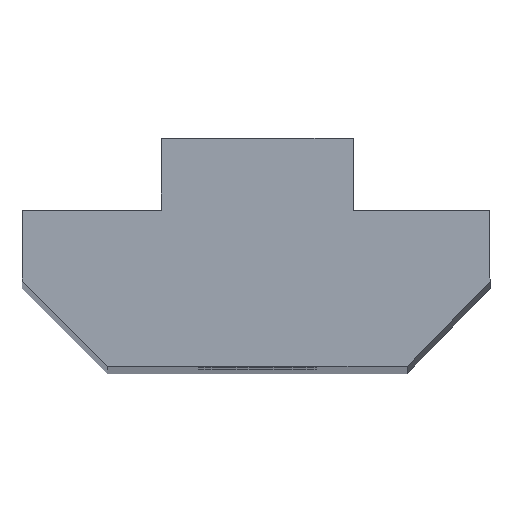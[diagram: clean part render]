
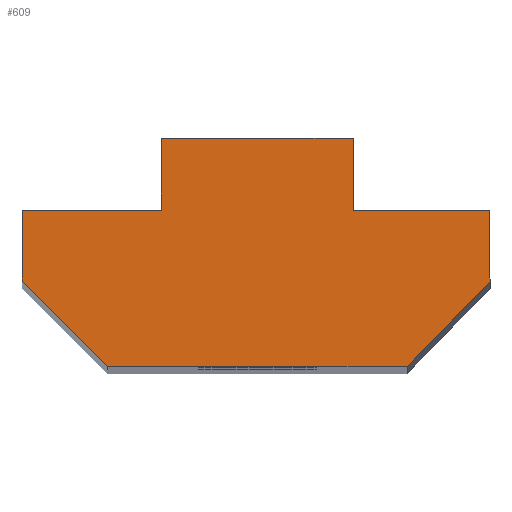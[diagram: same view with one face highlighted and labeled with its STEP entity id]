
A CAD part, top view. The second image highlights one B-rep face of the part: STEP entity #609.
In plain terms, the highlighted planar face has unit normal (0, 0, 1).
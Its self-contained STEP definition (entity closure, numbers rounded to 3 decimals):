
#245=CARTESIAN_POINT('',(213.687,131.952,180.0));
#246=VERTEX_POINT('',#245);
#247=CARTESIAN_POINT('',(219.487,131.952,180.0));
#248=VERTEX_POINT('',#247);
#249=CARTESIAN_POINT('',(213.687,131.952,180.0));
#250=DIRECTION('',(1.0,0.0,0.0));
#251=VECTOR('',#250,5.8);
#252=LINE('',#249,#251);
#253=EDGE_CURVE('',#246,#248,#252,.T.);
#285=CARTESIAN_POINT('',(219.487,134.952,180.0));
#286=VERTEX_POINT('',#285);
#287=CARTESIAN_POINT('',(219.487,131.952,180.0));
#288=DIRECTION('',(0.0,1.0,0.0));
#289=VECTOR('',#288,3.0);
#290=LINE('',#287,#289);
#291=EDGE_CURVE('',#248,#286,#290,.T.);
#316=CARTESIAN_POINT('',(227.487,134.952,180.0));
#317=VERTEX_POINT('',#316);
#318=CARTESIAN_POINT('',(219.487,134.952,180.0));
#319=DIRECTION('',(1.0,0.0,0.0));
#320=VECTOR('',#319,8.0);
#321=LINE('',#318,#320);
#322=EDGE_CURVE('',#286,#317,#321,.T.);
#359=CARTESIAN_POINT('',(227.487,131.952,180.0));
#360=VERTEX_POINT('',#359);
#361=CARTESIAN_POINT('',(227.487,134.952,180.0));
#362=DIRECTION('',(0.0,-1.0,0.0));
#363=VECTOR('',#362,3.);
#364=LINE('',#361,#363);
#365=EDGE_CURVE('',#317,#360,#364,.T.);
#390=CARTESIAN_POINT('',(233.187,131.952,180.0));
#391=VERTEX_POINT('',#390);
#392=CARTESIAN_POINT('',(227.487,131.952,180.0));
#393=DIRECTION('',(1.0,0.0,0.0));
#394=VECTOR('',#393,5.7);
#395=LINE('',#392,#394);
#396=EDGE_CURVE('',#360,#391,#395,.T.);
#421=CARTESIAN_POINT('',(233.187,129.002,180.0));
#422=VERTEX_POINT('',#421);
#423=CARTESIAN_POINT('',(233.187,131.952,180.0));
#424=DIRECTION('',(0.0,-1.0,0.0));
#425=VECTOR('',#424,2.95);
#426=LINE('',#423,#425);
#427=EDGE_CURVE('',#391,#422,#426,.T.);
#452=CARTESIAN_POINT('',(229.737,125.452,180.0));
#453=VERTEX_POINT('',#452);
#454=CARTESIAN_POINT('',(233.187,129.002,180.0));
#455=DIRECTION('',(-0.697,-0.717,0.0));
#456=VECTOR('',#455,4.95);
#457=LINE('',#454,#456);
#458=EDGE_CURVE('',#422,#453,#457,.T.);
#483=CARTESIAN_POINT('',(217.237,125.452,180.0));
#484=VERTEX_POINT('',#483);
#485=CARTESIAN_POINT('',(229.737,125.452,180.0));
#486=DIRECTION('',(-1.0,0.0,0.0));
#487=VECTOR('',#486,12.5);
#488=LINE('',#485,#487);
#489=EDGE_CURVE('',#453,#484,#488,.T.);
#526=CARTESIAN_POINT('',(213.687,129.002,180.0));
#527=VERTEX_POINT('',#526);
#528=CARTESIAN_POINT('',(217.237,125.452,180.0));
#529=DIRECTION('',(-0.707,0.707,0.0));
#530=VECTOR('',#529,5.02);
#531=LINE('',#528,#530);
#532=EDGE_CURVE('',#484,#527,#531,.T.);
#557=CARTESIAN_POINT('',(213.687,129.002,180.0));
#558=DIRECTION('',(0.0,1.0,0.0));
#559=VECTOR('',#558,2.95);
#560=LINE('',#557,#559);
#561=EDGE_CURVE('',#527,#246,#560,.T.);
#592=CARTESIAN_POINT('',(223.448,130.02,180.0));
#593=DIRECTION('',(0.0,0.0,1.0));
#594=DIRECTION('',(1.0,0.0,0.0));
#595=AXIS2_PLACEMENT_3D('',#592,#593,#594);
#596=PLANE('',#595);
#597=ORIENTED_EDGE('',*,*,#253,.F.);
#598=ORIENTED_EDGE('',*,*,#561,.F.);
#599=ORIENTED_EDGE('',*,*,#532,.F.);
#600=ORIENTED_EDGE('',*,*,#489,.F.);
#601=ORIENTED_EDGE('',*,*,#458,.F.);
#602=ORIENTED_EDGE('',*,*,#427,.F.);
#603=ORIENTED_EDGE('',*,*,#396,.F.);
#604=ORIENTED_EDGE('',*,*,#365,.F.);
#605=ORIENTED_EDGE('',*,*,#322,.F.);
#606=ORIENTED_EDGE('',*,*,#291,.F.);
#607=EDGE_LOOP('',(#597,#598,#599,#600,#601,#602,#603,#604,#605,#606));
#608=FACE_OUTER_BOUND('',#607,.T.);
#609=ADVANCED_FACE('',(#608),#596,.T.);
